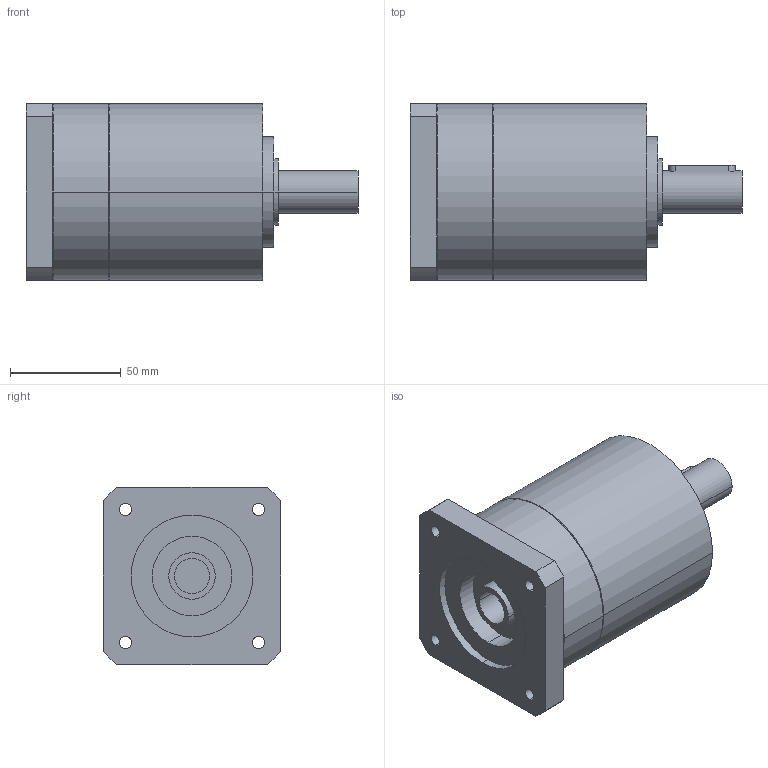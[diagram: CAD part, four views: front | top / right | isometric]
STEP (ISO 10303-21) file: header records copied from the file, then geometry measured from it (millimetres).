
FILE_DESCRIPTION(('CoCreate Modeling STEP Export'),'2;1');
FILE_NAME('GPR100_ig-3-4-5-6_19_B14_15.87_P20.stp','2014-08-26T10:07:48',(''),(''),'CoCreate Modeling STEP processor for AP214 (Solid Model)','CoCreate Modeling 16.00C 25-Feb-2009 (C) Parametric Technology GmbH','');
FILE_SCHEMA(('AUTOMOTIVE_DESIGN { 1 0 10303 214 1 1 1 1 }'));
Length unit declared in the file: millimetre
Products named in the file (2): GPR100_ig-3-4-5-6_19_B14_15.87_P20
Assembly tree (1 placements, depth 2):
  GPR100_ig-3-4-5-6_19_B14_15.87_P20
    GPR100_ig-3-4-5-6_19_B14_15.87_P20
Bounding box: 150 x 80 x 80 mm (x, y, z)
Volume: 549189 mm3; surface area: 50002.5 mm2
Topology: 1 solids, 1 shells, 86 faces, 220 edges, 148 vertices
Faces by surface type: cylinder 50, plane 30, cone 6
Entity records: 2257 total; most frequent: ORIENTED_EDGE 436, CARTESIAN_POINT 406, DIRECTION 314, EDGE_CURVE 218, VERTEX_POINT 148, AXIS2_PLACEMENT_3D 120, EDGE_LOOP 108, FACE_OUTER_BOUND 86
